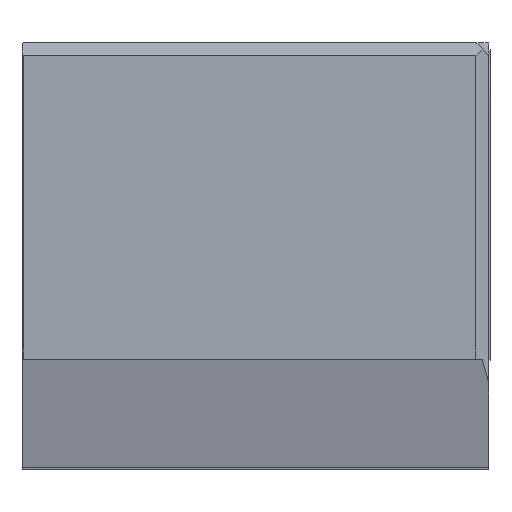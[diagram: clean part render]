
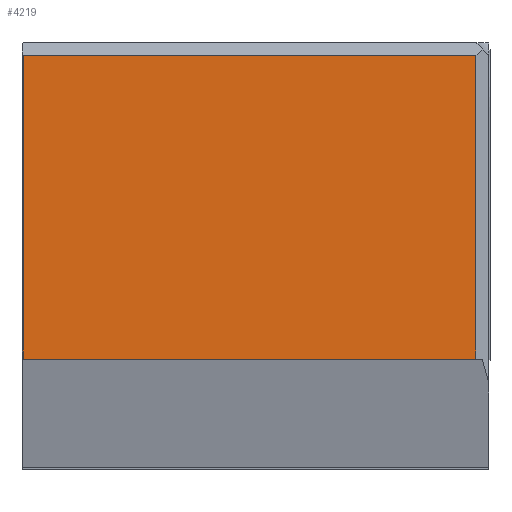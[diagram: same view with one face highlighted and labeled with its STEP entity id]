
A CAD part, top view. The second image highlights one B-rep face of the part: STEP entity #4219.
In plain terms, the highlighted planar face has unit normal (0, 0, 1).
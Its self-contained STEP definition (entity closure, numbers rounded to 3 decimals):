
#78 = DIRECTION ( 'NONE',  ( 1., 0., 0. ) ) ;
#83 = CARTESIAN_POINT ( 'NONE',  ( 0.2, 64.5, 80. ) ) ;
#162 = DIRECTION ( 'NONE',  ( 0., -1., 0. ) ) ;
#171 = EDGE_CURVE ( 'NONE', #5159, #704, #5600, .T. ) ;
#668 = DIRECTION ( 'NONE',  ( 0., 0., -1. ) ) ;
#704 = VERTEX_POINT ( 'NONE', #1187 ) ;
#746 = LINE ( 'NONE', #2313, #919 ) ;
#919 = VECTOR ( 'NONE', #5228, 1000. ) ;
#983 = VERTEX_POINT ( 'NONE', #1914 ) ;
#1025 = CARTESIAN_POINT ( 'NONE',  ( 0.2, 17., 80. ) ) ;
#1187 = CARTESIAN_POINT ( 'NONE',  ( 71., 17., 80. ) ) ;
#1298 = VECTOR ( 'NONE', #78, 1000. ) ;
#1470 = VERTEX_POINT ( 'NONE', #83 ) ;
#1571 = EDGE_LOOP ( 'NONE', ( #7455, #7299, #4066, #3812 ) ) ;
#1914 = CARTESIAN_POINT ( 'NONE',  ( 71., 64.5, 80. ) ) ;
#1984 = LINE ( 'NONE', #3340, #2871 ) ;
#2313 = CARTESIAN_POINT ( 'NONE',  ( 71., 0., 80. ) ) ;
#2588 = EDGE_CURVE ( 'NONE', #983, #1470, #1984, .T. ) ;
#2783 = EDGE_CURVE ( 'NONE', #1470, #5159, #4734, .T. ) ;
#2871 = VECTOR ( 'NONE', #4489, 1000. ) ;
#2911 = DIRECTION ( 'NONE',  ( -1., 0., 0. ) ) ;
#2998 = AXIS2_PLACEMENT_3D ( 'NONE', #5205, #668, #2911 ) ;
#3037 = VECTOR ( 'NONE', #162, 1000. ) ;
#3340 = CARTESIAN_POINT ( 'NONE',  ( 73., 64.5, 80. ) ) ;
#3661 = CARTESIAN_POINT ( 'NONE',  ( 0.2, 17., 80. ) ) ;
#3812 = ORIENTED_EDGE ( 'NONE', *, *, #5553, .T. ) ;
#4066 = ORIENTED_EDGE ( 'NONE', *, *, #171, .T. ) ;
#4219 = ADVANCED_FACE ( 'NONE', ( #6983 ), #7014, .F. ) ;
#4489 = DIRECTION ( 'NONE',  ( -1., 0., 0. ) ) ;
#4734 = LINE ( 'NONE', #3661, #3037 ) ;
#5159 = VERTEX_POINT ( 'NONE', #1025 ) ;
#5205 = CARTESIAN_POINT ( 'NONE',  ( 73., 0., 80. ) ) ;
#5228 = DIRECTION ( 'NONE',  ( 0., 1., 0. ) ) ;
#5553 = EDGE_CURVE ( 'NONE', #704, #983, #746, .T. ) ;
#5600 = LINE ( 'NONE', #6304, #1298 ) ;
#6304 = CARTESIAN_POINT ( 'NONE',  ( 0., 17., 80. ) ) ;
#6983 = FACE_OUTER_BOUND ( 'NONE', #1571, .T. ) ;
#7014 = PLANE ( 'NONE',  #2998 ) ;
#7299 = ORIENTED_EDGE ( 'NONE', *, *, #2783, .T. ) ;
#7455 = ORIENTED_EDGE ( 'NONE', *, *, #2588, .T. ) ;
